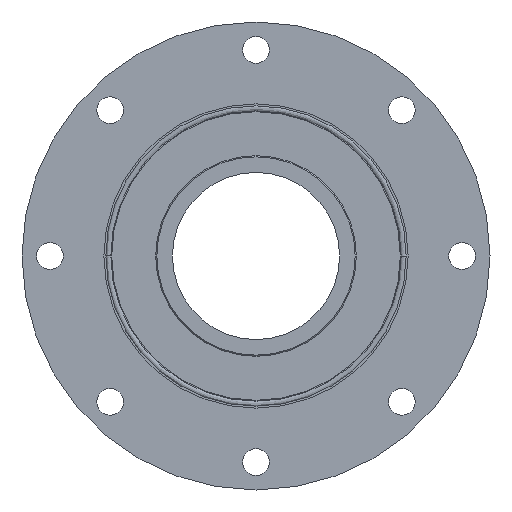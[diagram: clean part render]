
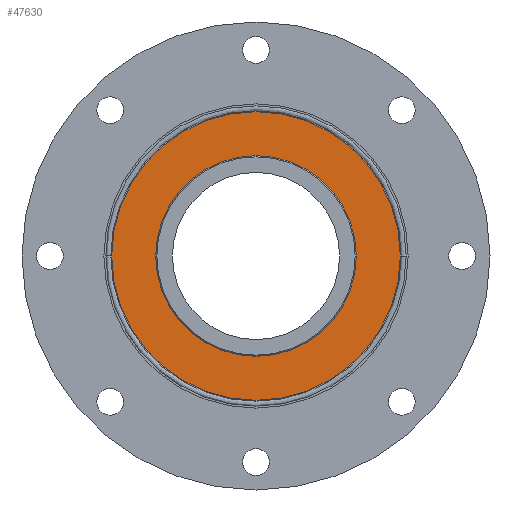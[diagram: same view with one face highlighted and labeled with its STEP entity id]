
A CAD part, left-side view. The second image highlights one B-rep face of the part: STEP entity #47630.
In plain terms, the highlighted planar face has unit normal (-1, 0, 0).
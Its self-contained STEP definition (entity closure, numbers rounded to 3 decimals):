
#355 = AXIS2_PLACEMENT_3D ( 'NONE', #18864, #23513, #10632 ) ;
#4175 = AXIS2_PLACEMENT_3D ( 'NONE', #27320, #23191, #6880 ) ;
#5419 = CIRCLE ( 'NONE', #52021, 45. ) ;
#6880 = DIRECTION ( 'NONE',  ( 0., -1., 0. ) ) ;
#10632 = DIRECTION ( 'NONE',  ( 0., -1., 0. ) ) ;
#11375 = FACE_BOUND ( 'NONE', #13414, .T. ) ;
#12584 = DIRECTION ( 'NONE',  ( 0., -1., 0. ) ) ;
#13414 = EDGE_LOOP ( 'NONE', ( #41571, #19332 ) ) ;
#14146 = CARTESIAN_POINT ( 'NONE',  ( 0., 45., 0. ) ) ;
#14711 = DIRECTION ( 'NONE',  ( 0., -1., 0. ) ) ;
#16592 = EDGE_LOOP ( 'NONE', ( #20594, #31960 ) ) ;
#17622 = DIRECTION ( 'NONE',  ( 0., -1., 0. ) ) ;
#18864 = CARTESIAN_POINT ( 'NONE',  ( 0., 0., 0. ) ) ;
#18980 = VERTEX_POINT ( 'NONE', #14146 ) ;
#19332 = ORIENTED_EDGE ( 'NONE', *, *, #44318, .F. ) ;
#20406 = CIRCLE ( 'NONE', #355, 64.75 ) ;
#20594 = ORIENTED_EDGE ( 'NONE', *, *, #38873, .T. ) ;
#21214 = CARTESIAN_POINT ( 'NONE',  ( 0., 0., 0. ) ) ;
#21466 = EDGE_CURVE ( 'NONE', #26772, #18980, #5419, .T. ) ;
#23191 = DIRECTION ( 'NONE',  ( -1., 0., 0. ) ) ;
#23513 = DIRECTION ( 'NONE',  ( -1., 0., 0. ) ) ;
#23564 = CIRCLE ( 'NONE', #38144, 64.75 ) ;
#24855 = CARTESIAN_POINT ( 'NONE',  ( 0., -64.75, 0. ) ) ;
#26772 = VERTEX_POINT ( 'NONE', #40357 ) ;
#27320 = CARTESIAN_POINT ( 'NONE',  ( 0., 45., 0. ) ) ;
#31535 = DIRECTION ( 'NONE',  ( -1., 0., 0. ) ) ;
#31834 = FACE_OUTER_BOUND ( 'NONE', #16592, .T. ) ;
#31960 = ORIENTED_EDGE ( 'NONE', *, *, #46405, .T. ) ;
#33186 = CARTESIAN_POINT ( 'NONE',  ( 0., 0., 0. ) ) ;
#33755 = DIRECTION ( 'NONE',  ( -1., 0., 0. ) ) ;
#34851 = PLANE ( 'NONE',  #4175 ) ;
#38144 = AXIS2_PLACEMENT_3D ( 'NONE', #39080, #31535, #14711 ) ;
#38873 = EDGE_CURVE ( 'NONE', #51231, #47129, #20406, .T. ) ;
#39080 = CARTESIAN_POINT ( 'NONE',  ( 0., 0., 0. ) ) ;
#40357 = CARTESIAN_POINT ( 'NONE',  ( 0., -45., 0. ) ) ;
#40465 = AXIS2_PLACEMENT_3D ( 'NONE', #33186, #40680, #12584 ) ;
#40680 = DIRECTION ( 'NONE',  ( -1., 0., 0. ) ) ;
#41571 = ORIENTED_EDGE ( 'NONE', *, *, #21466, .F. ) ;
#44318 = EDGE_CURVE ( 'NONE', #18980, #26772, #50394, .T. ) ;
#46405 = EDGE_CURVE ( 'NONE', #47129, #51231, #23564, .T. ) ;
#47129 = VERTEX_POINT ( 'NONE', #50050 ) ;
#47630 = ADVANCED_FACE ( 'NONE', ( #31834, #11375 ), #34851, .T. ) ;
#50050 = CARTESIAN_POINT ( 'NONE',  ( 0., 64.75, 0. ) ) ;
#50394 = CIRCLE ( 'NONE', #40465, 45. ) ;
#51231 = VERTEX_POINT ( 'NONE', #24855 ) ;
#52021 = AXIS2_PLACEMENT_3D ( 'NONE', #21214, #33755, #17622 ) ;
